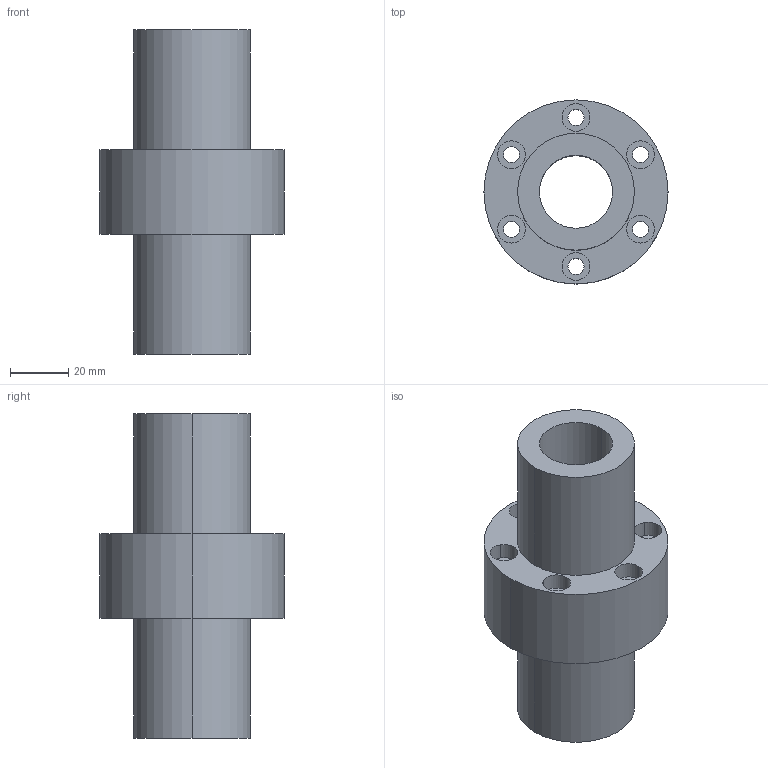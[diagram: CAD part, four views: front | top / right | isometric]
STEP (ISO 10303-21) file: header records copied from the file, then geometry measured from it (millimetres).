
FILE_DESCRIPTION((''),'2;1');
FILE_NAME('25-6T3','2008-04-07T',('yanyu'),(''),'PRO/ENGINEER BY PARAMETRIC TECHNOLOGY CORPORATION, 2005070','PRO/ENGINEER BY PARAMETRIC TECHNOLOGY CORPORATION, 2005070','');
FILE_SCHEMA(('CONFIG_CONTROL_DESIGN'));
Length unit declared in the file: millimetre
Products named in the file (1): 25-6T3
Bounding box: 63 x 63 x 111 mm (x, y, z)
Volume: 133268.3 mm3; surface area: 33150.9 mm2
Topology: 1 solids, 1 shells, 42 faces, 100 edges, 68 vertices
Faces by surface type: cylinder 32, plane 10
Entity records: 1330 total; most frequent: DIRECTION 252, CARTESIAN_POINT 210, ORIENTED_EDGE 200, AXIS2_PLACEMENT_3D 110, EDGE_CURVE 100, VERTEX_POINT 68, CIRCLE 68, EDGE_LOOP 64
